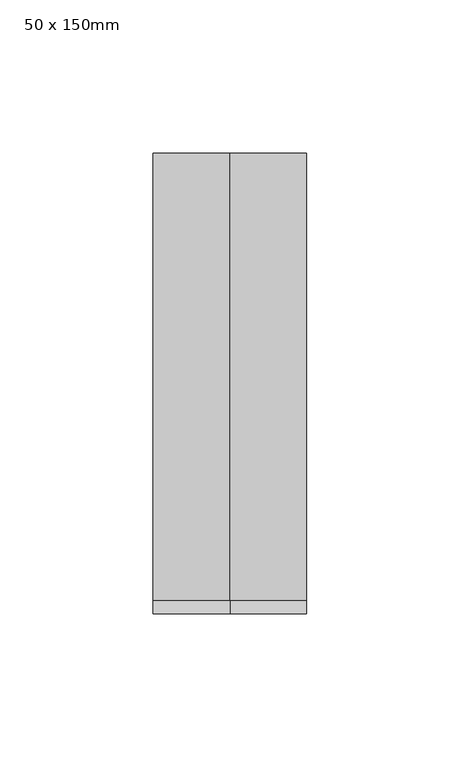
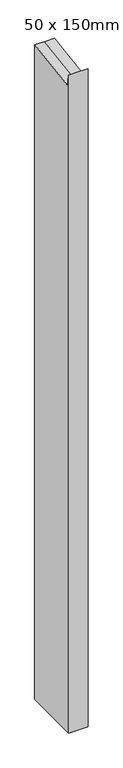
"""IFC4 building model written with IfcOpenShell, lengths in millimetres: member geometry, 矩形竖梃 : 50 x 150mm."""

from ifc_helpers import new_model, si_unit, origin, place, context, project, spatial, faceted_brep, source, transform, mapped, element, save


def member_50_x_150mm_6777a42d(model_context):
    return source(origin(), model_context, "Body", "Brep", [
        faceted_brep([(25.0, 75.0, -1755.0000063), (25.0, -75.0, -1755.0000063), (-25.0, -75.0, -1755.0000063), (-25.0, 75.0, -1755.0000063), (-25.0, 75.0, 10.5744657), (0.0, 75.0, 10.5744657), (25.0, 75.0, 10.5744657), (-25.0, -75.0, 19.6109918), (-25.0, -70.6553215, -10.4658364), (25.0, -75.0, 19.6109918), (0.0, -75.0, 19.6109918), (25.0, -70.6553215, -10.4658364), (0.0, -70.6553215, -10.4658364)], [[[0, 1, 2, 3]], [[4, 5, 6, 0, 3]], [[7, 8, 4, 3, 2]], [[9, 10, 7, 2, 1]], [[6, 11, 9, 1, 0]], [[6, 5, 12, 11]], [[5, 4, 8, 12]], [[8, 7, 10, 12]], [[10, 9, 11, 12]]]),
    ])


if __name__ == "__main__":
    model = new_model("IFC4")
    model_context = context("Model", 3, world=origin())
    ifc_project = project(units=[si_unit("LENGTHUNIT", "METRE", prefix="MILLI")], contexts=[model_context])
    site = spatial("IfcSite", under=ifc_project)
    building = spatial("IfcBuilding", under=site)
    placement = place(None, origin())
    member_50_x_150mm_shape = member_50_x_150mm_6777a42d(model_context)
    element("IfcMember", 1, ObjectType="矩形竖梃 : 50 x 150mm", at=placement, inside=building, context=model_context, shape_type="MappedRepresentation", body=[
        mapped(member_50_x_150mm_shape, transform((0.0, 0.0, 0.0), x_axis=(1.0, 0.0, 0.0), y_axis=(0.0, 1.0, 0.0), z_axis=(0.0, 0.0, 1.0))),
    ])
    save(model, "model.ifc")
